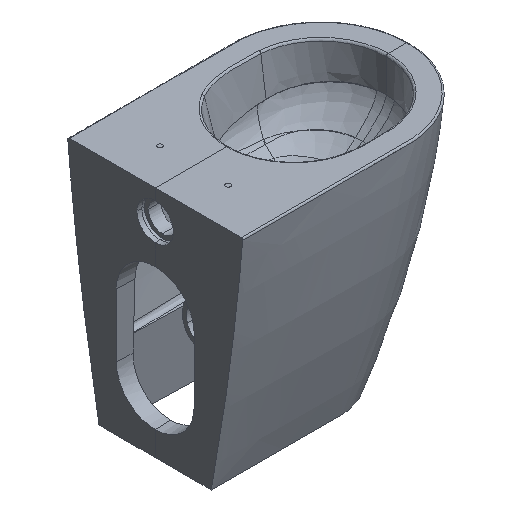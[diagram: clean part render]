
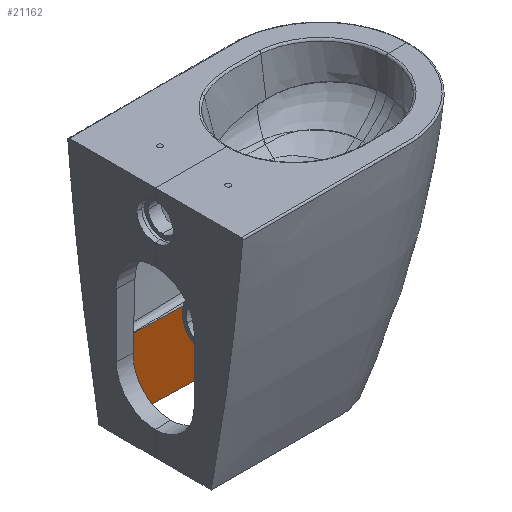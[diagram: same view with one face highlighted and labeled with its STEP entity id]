
A CAD part, isometric view. The second image highlights one B-rep face of the part: STEP entity #21162.
In plain terms, the highlighted free-form (B-spline) face has degree [5, 1] with [6, 2] control points.
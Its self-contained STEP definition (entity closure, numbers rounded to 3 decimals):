
#7528=CARTESIAN_POINT('Vertex',(46.748,94.396,-329.991)) ;
#7531=CARTESIAN_POINT('Line Origine',(48.963,91.382,-245.386)) ;
#7535=CARTESIAN_POINT('Vertex',(42.82,99.738,-479.991)) ;
#16502=CARTESIAN_POINT('Vertex',(281.708,88.243,-329.991)) ;
#16506=CARTESIAN_POINT('Control Point',(46.748,94.396,-329.991)) ;
#16507=CARTESIAN_POINT('Control Point',(93.74,93.165,-329.991)) ;
#16508=CARTESIAN_POINT('Control Point',(140.732,91.935,-329.991)) ;
#16509=CARTESIAN_POINT('Control Point',(187.724,90.704,-329.991)) ;
#16510=CARTESIAN_POINT('Control Point',(234.716,89.474,-329.991)) ;
#16511=CARTESIAN_POINT('Control Point',(281.708,88.243,-329.991)) ;
#19296=CARTESIAN_POINT('Vertex',(281.845,93.479,-479.991)) ;
#19300=CARTESIAN_POINT('Control Point',(281.708,88.243,-329.991)) ;
#19301=CARTESIAN_POINT('Control Point',(281.845,93.479,-479.991)) ;
#21136=CARTESIAN_POINT('Control Point',(41.87,83.006,-0.283)) ;
#21137=CARTESIAN_POINT('Control Point',(42.308,99.752,-479.991)) ;
#21138=CARTESIAN_POINT('Control Point',(89.777,81.751,-0.283)) ;
#21139=CARTESIAN_POINT('Control Point',(90.216,98.497,-479.991)) ;
#21140=CARTESIAN_POINT('Control Point',(137.684,80.497,-0.283)) ;
#21141=CARTESIAN_POINT('Control Point',(138.123,97.243,-479.991)) ;
#21142=CARTESIAN_POINT('Control Point',(185.592,79.242,-0.283)) ;
#21143=CARTESIAN_POINT('Control Point',(186.03,95.988,-479.991)) ;
#21144=CARTESIAN_POINT('Control Point',(233.499,77.988,-0.283)) ;
#21145=CARTESIAN_POINT('Control Point',(233.938,94.734,-479.991)) ;
#21146=CARTESIAN_POINT('Control Point',(281.407,76.733,-0.283)) ;
#21147=CARTESIAN_POINT('Control Point',(281.845,93.479,-479.991)) ;
#21149=CARTESIAN_POINT('Control Point',(42.82,99.738,-479.991)) ;
#21150=CARTESIAN_POINT('Control Point',(90.625,98.487,-479.991)) ;
#21151=CARTESIAN_POINT('Control Point',(138.43,97.235,-479.991)) ;
#21152=CARTESIAN_POINT('Control Point',(186.235,95.983,-479.991)) ;
#21153=CARTESIAN_POINT('Control Point',(234.04,94.731,-479.991)) ;
#21154=CARTESIAN_POINT('Control Point',(281.845,93.479,-479.991)) ;
#7532=DIRECTION('Vector Direction',(0.026,-0.036,0.999)) ;
#7533=VECTOR('Line Direction',#7532,1.) ;
#21157=ORIENTED_EDGE('',*,*,#21155,.F.) ;
#21158=ORIENTED_EDGE('',*,*,#7537,.T.) ;
#21159=ORIENTED_EDGE('',*,*,#16512,.T.) ;
#21160=ORIENTED_EDGE('',*,*,#19302,.T.) ;
#21162=ADVANCED_FACE('Composizione.2',(#21161),#21135,.T.) ;
#16505=B_SPLINE_CURVE_WITH_KNOTS('',5,(#16506,#16507,#16508,#16509,#16510,#16511),.UNSPECIFIED.,.F.,.U.,(6,6),(6.475,338.873),.UNSPECIFIED.) ;
#19299=B_SPLINE_CURVE_WITH_KNOTS('',1,(#19300,#19301),.UNSPECIFIED.,.F.,.U.,(2,2),(329.909,480.),.UNSPECIFIED.) ;
#21148=B_SPLINE_CURVE_WITH_KNOTS('',5,(#21149,#21150,#21151,#21152,#21153,#21154),.UNSPECIFIED.,.F.,.U.,(6,6),(0.512,239.619),.UNSPECIFIED.) ;
#21135=B_SPLINE_SURFACE_WITH_KNOTS('',5,1,((#21136,#21137),(#21138,#21139),(#21140,#21141),(#21142,#21143),(#21144,#21145),(#21146,#21147)),.UNSPECIFIED.,.F.,.F.,.U.,(6,6),(2,2),(0.,239.619),(0.,480.),.UNSPECIFIED.) ;
#7537=EDGE_CURVE('',#7536,#7529,#7534,.T.) ;
#16512=EDGE_CURVE('',#7529,#16503,#16505,.T.) ;
#19302=EDGE_CURVE('',#16503,#19297,#19299,.T.) ;
#21155=EDGE_CURVE('',#7536,#19297,#21148,.T.) ;
#21156=EDGE_LOOP('',(#21157,#21158,#21159,#21160)) ;
#21161=FACE_OUTER_BOUND('',#21156,.T.) ;
#7534=LINE('Line',#7531,#7533) ;
#7529=VERTEX_POINT('',#7528) ;
#7536=VERTEX_POINT('',#7535) ;
#16503=VERTEX_POINT('',#16502) ;
#19297=VERTEX_POINT('',#19296) ;
